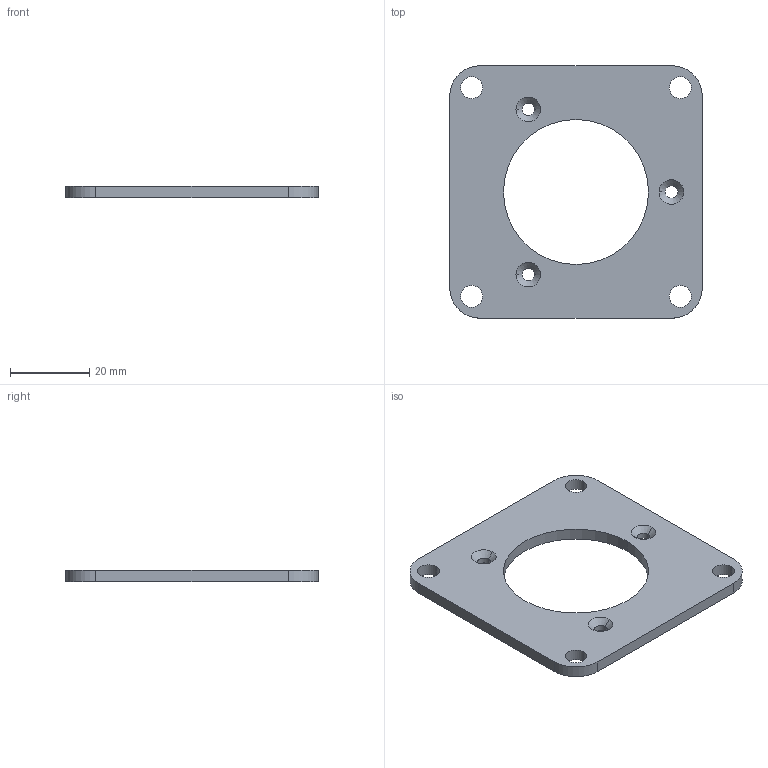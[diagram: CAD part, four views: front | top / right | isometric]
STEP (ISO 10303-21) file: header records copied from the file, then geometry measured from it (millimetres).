
FILE_DESCRIPTION (( 'STEP AP214' ), '1' );
FILE_NAME ('8.0010.2120.0000.STEP', '2014-11-06T12:36:20', ( 'admin' ), ( 'Microsoft' ), 'SwSTEP 2.0', 'SolidWorks 2013', '' );
FILE_SCHEMA (( 'AUTOMOTIVE_DESIGN' ));
Length unit declared in the file: millimetre
Products named in the file (1): 8.0010.2120.0000
Bounding box: 63.5 x 63.5 x 3 mm (x, y, z)
Volume: 8410.8 mm3; surface area: 6984.4 mm2
Topology: 1 solids, 1 shells, 32 faces, 84 edges, 54 vertices
Faces by surface type: cylinder 20, cone 6, plane 6
Entity records: 1072 total; most frequent: DIRECTION 196, CARTESIAN_POINT 171, ORIENTED_EDGE 168, EDGE_CURVE 84, AXIS2_PLACEMENT_3D 79, VERTEX_POINT 54, EDGE_LOOP 48, CIRCLE 46
